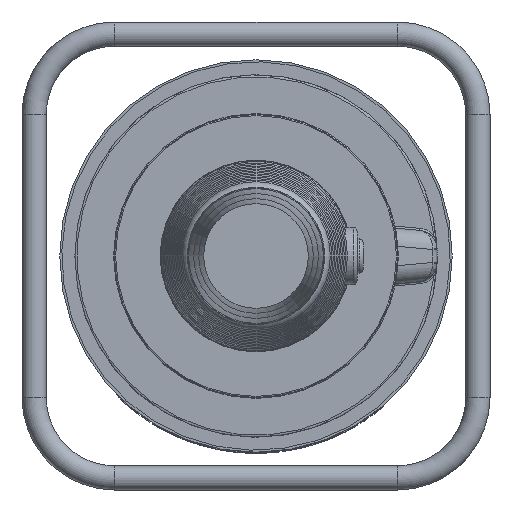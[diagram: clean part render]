
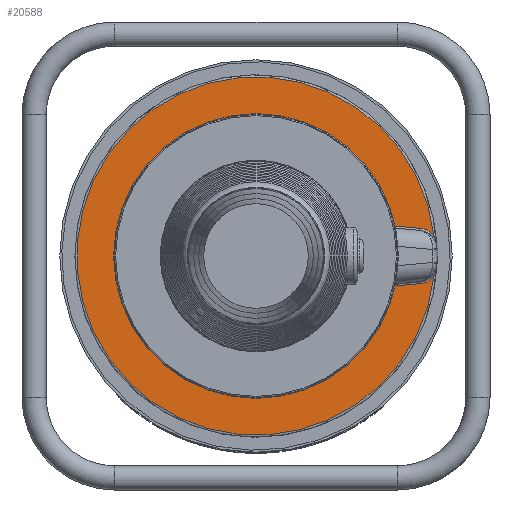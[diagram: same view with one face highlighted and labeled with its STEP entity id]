
A CAD part, left-side view. The second image highlights one B-rep face of the part: STEP entity #20588.
In plain terms, the highlighted planar face has unit normal (-1, 0, 0).
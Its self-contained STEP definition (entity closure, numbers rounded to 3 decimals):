
#1006=PLANE('',#21910);
#2922=LINE('',#45158,#4062);
#2924=LINE('',#45182,#4064);
#4062=VECTOR('',#25583,10.);
#4064=VECTOR('',#25613,10.);
#5178=FACE_OUTER_BOUND('',#6394,.T.);
#6394=EDGE_LOOP('',(#17269,#17270,#17271,#17272,#17273,#17274,#17275,#17276));
#7070=CIRCLE('',#21837,21.);
#7074=CIRCLE('',#21843,8.);
#7077=CIRCLE('',#21847,113.);
#7080=CIRCLE('',#21851,8.);
#7084=CIRCLE('',#21857,21.);
#7090=CIRCLE('',#21875,178.);
#9101=VERTEX_POINT('',#45125);
#9104=VERTEX_POINT('',#45150);
#9106=VERTEX_POINT('',#45156);
#9108=VERTEX_POINT('',#45162);
#9110=VERTEX_POINT('',#45168);
#9112=VERTEX_POINT('',#45174);
#9114=VERTEX_POINT('',#45180);
#9116=VERTEX_POINT('',#45186);
#11794=EDGE_CURVE('',#9104,#9101,#7070,.T.);
#11797=EDGE_CURVE('',#9106,#9104,#2922,.T.);
#11800=EDGE_CURVE('',#9108,#9106,#7074,.T.);
#11803=EDGE_CURVE('',#9110,#9108,#7077,.T.);
#11806=EDGE_CURVE('',#9112,#9110,#7080,.T.);
#11809=EDGE_CURVE('',#9114,#9112,#2924,.T.);
#11812=EDGE_CURVE('',#9116,#9114,#7084,.T.);
#11836=EDGE_CURVE('',#9101,#9116,#7090,.T.);
#17269=ORIENTED_EDGE('',*,*,#11812,.F.);
#17270=ORIENTED_EDGE('',*,*,#11836,.F.);
#17271=ORIENTED_EDGE('',*,*,#11794,.F.);
#17272=ORIENTED_EDGE('',*,*,#11797,.F.);
#17273=ORIENTED_EDGE('',*,*,#11800,.F.);
#17274=ORIENTED_EDGE('',*,*,#11803,.F.);
#17275=ORIENTED_EDGE('',*,*,#11806,.F.);
#17276=ORIENTED_EDGE('',*,*,#11809,.F.);
#20588=ADVANCED_FACE('',(#5178),#1006,.T.);
#21837=AXIS2_PLACEMENT_3D('',#45152,#25575,#25576);
#21843=AXIS2_PLACEMENT_3D('',#45164,#25589,#25590);
#21847=AXIS2_PLACEMENT_3D('',#45170,#25597,#25598);
#21851=AXIS2_PLACEMENT_3D('',#45176,#25605,#25606);
#21857=AXIS2_PLACEMENT_3D('',#45188,#25619,#25620);
#21875=AXIS2_PLACEMENT_3D('',#45323,#25665,#25666);
#21910=AXIS2_PLACEMENT_3D('',#45949,#25739,#25740);
#25575=DIRECTION('center_axis',(-1.,0.,0.));
#25576=DIRECTION('ref_axis',(0.,-0.535,-0.845));
#25583=DIRECTION('',(0.,-0.996,0.087));
#25589=DIRECTION('center_axis',(1.,0.,0.));
#25590=DIRECTION('ref_axis',(0.,0.614,0.789));
#25597=DIRECTION('center_axis',(-1.,0.,0.));
#25598=DIRECTION('ref_axis',(0.,1.,0.));
#25605=DIRECTION('center_axis',(1.,0.,0.));
#25606=DIRECTION('ref_axis',(0.,0.614,-0.789));
#25613=DIRECTION('',(0.,0.996,0.087));
#25619=DIRECTION('center_axis',(-1.,0.,0.));
#25620=DIRECTION('ref_axis',(0.,-0.535,0.845));
#25665=DIRECTION('center_axis',(1.,0.,0.));
#25666=DIRECTION('ref_axis',(0.,1.,0.));
#25739=DIRECTION('center_axis',(-1.,0.,0.));
#25740=DIRECTION('ref_axis',(0.,0.,
-1.));
#45125=CARTESIAN_POINT('',(-155.,-183.206,-20.223));
#45150=CARTESIAN_POINT('',(-155.,-169.054,-27.522));
#45152=CARTESIAN_POINT('Origin',(-155.,-167.224,-6.602));
#45156=CARTESIAN_POINT('',(-155.,-119.933,-31.819));
#45158=CARTESIAN_POINT('',(-155.,14.539,-43.584));
#45162=CARTESIAN_POINT('',(-155.,-113.075,-37.158));
#45164=CARTESIAN_POINT('Origin',(-155.,-120.63,-39.789));
#45168=CARTESIAN_POINT('',(-155.,-113.075,37.158));
#45170=CARTESIAN_POINT('Origin',(-155.,-6.359,0.));
#45174=CARTESIAN_POINT('',(-155.,-119.933,31.819));
#45176=CARTESIAN_POINT('Origin',(-155.,-120.63,39.789));
#45180=CARTESIAN_POINT('',(-155.,-169.054,27.522));
#45182=CARTESIAN_POINT('',(-155.,14.539,43.584));
#45186=CARTESIAN_POINT('',(-155.,-183.206,20.223));
#45188=CARTESIAN_POINT('Origin',(-155.,-167.224,6.602));
#45323=CARTESIAN_POINT('Origin',(-155.,-6.359,0.));
#45949=CARTESIAN_POINT('Origin',(-155.,172.641,0.));
